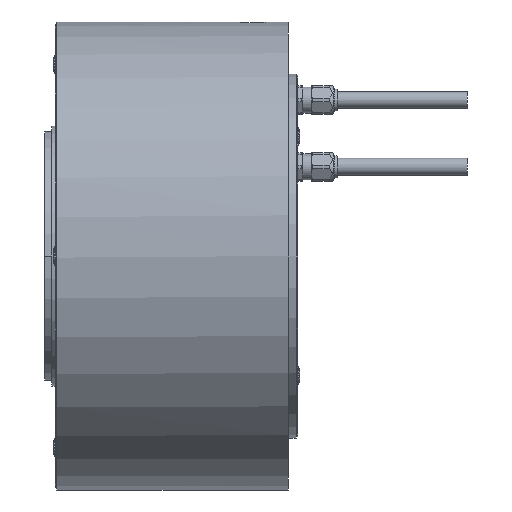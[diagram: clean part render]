
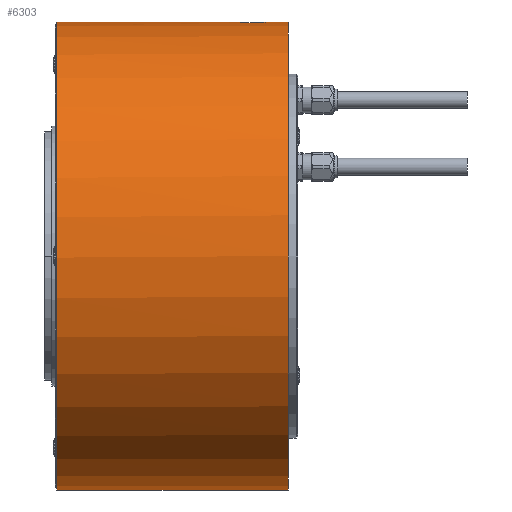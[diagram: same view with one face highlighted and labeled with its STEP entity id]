
A CAD part, left-side view. The second image highlights one B-rep face of the part: STEP entity #6303.
In plain terms, the highlighted cylindrical face has radius 90 mm (diameter 180 mm), a partial arc.
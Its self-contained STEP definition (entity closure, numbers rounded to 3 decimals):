
#370 = ORIENTED_EDGE ( 'NONE', *, *, #15970, .T. ) ;
#435 = CARTESIAN_POINT ( 'NONE',  ( -6.956, -13.911, 89.731 ) ) ;
#460 = AXIS2_PLACEMENT_3D ( 'NONE', #5119, #17191, #15517 ) ;
#723 = CARTESIAN_POINT ( 'NONE',  ( -3.106, -19.29, 89.947 ) ) ;
#1113 = CARTESIAN_POINT ( 'NONE',  ( -5.566, -8.73, 89.828 ) ) ;
#1204 = CARTESIAN_POINT ( 'NONE',  ( -6.775, -11.182, 89.745 ) ) ;
#1259 = EDGE_CURVE ( 'NONE', #17321, #12052, #19239, .T. ) ;
#1367 = ORIENTED_EDGE ( 'NONE', *, *, #6632, .F. ) ;
#1397 = CARTESIAN_POINT ( 'NONE',  ( -1.25, 62.2, 89.991 ) ) ;
#1403 = CARTESIAN_POINT ( 'NONE',  ( -0.921, -6.046, 89.996 ) ) ;
#1713 = FACE_OUTER_BOUND ( 'NONE', #11268, .T. ) ;
#2307 = CARTESIAN_POINT ( 'NONE',  ( -5.564, -17.272, 89.828 ) ) ;
#2392 = AXIS2_PLACEMENT_3D ( 'NONE', #16434, #15086, #12124 ) ;
#2419 = CARTESIAN_POINT ( 'NONE',  ( -6.765, -14.814, 89.745 ) ) ;
#2609 = CARTESIAN_POINT ( 'NONE',  ( -0.457, -6., 90. ) ) ;
#2695 = CARTESIAN_POINT ( 'NONE',  ( -4.269, -7.434, 89.899 ) ) ;
#2797 = CARTESIAN_POINT ( 'NONE',  ( 0., -6., 90. ) ) ;
#2895 = CARTESIAN_POINT ( 'NONE',  ( -6.28, -9.9, 89.781 ) ) ;
#3216 = CARTESIAN_POINT ( 'NONE',  ( 0., -30., 0. ) ) ;
#3290 = VECTOR ( 'NONE', #10648, 1000. ) ;
#3440 = CARTESIAN_POINT ( 'NONE',  ( -1.25, 62., 89.991 ) ) ;
#3706 = CARTESIAN_POINT ( 'NONE',  ( 0., -20., 90. ) ) ;
#3808 = LINE ( 'NONE', #12753, #18020 ) ;
#3900 = CARTESIAN_POINT ( 'NONE',  ( -3.508, -19.075, 89.932 ) ) ;
#4007 = DIRECTION ( 'NONE',  ( 0., 1., 0. ) ) ;
#4177 = B_SPLINE_CURVE_WITH_KNOTS ( 'NONE', 3,
 ( #3706, #15777, #9568, #8268, #15585, #14322, #9864, #723, #3900, #11372, #12842, #17367, #2307, #8368, #6885, #18946, #5388, #11469, #2419, #15967, #435, #14029, #6486 ),
 .UNSPECIFIED., .F., .F.,
 ( 4, 2, 2, 2, 2, 2, 2, 2, 1, 2, 2, 4 ),
 ( 0., 0.001, 0.002, 0.003, 0.004, 0.005, 0.007, 0.008, 0.008, 0.009, 0.01, 0.011 ),
 .UNSPECIFIED. ) ;
#4379 = CARTESIAN_POINT ( 'NONE',  ( -7., -13., 89.727 ) ) ;
#4568 = CARTESIAN_POINT ( 'NONE',  ( 0., -30., -90. ) ) ;
#4803 = ORIENTED_EDGE ( 'NONE', *, *, #1259, .T. ) ;
#5119 = CARTESIAN_POINT ( 'NONE',  ( 0., -27., 0. ) ) ;
#5173 = EDGE_CURVE ( 'NONE', #9224, #17884, #3808, .T. ) ;
#5191 = DIRECTION ( 'NONE',  ( 0., 1., 0. ) ) ;
#5388 = CARTESIAN_POINT ( 'NONE',  ( -6.478, -15.682, 89.767 ) ) ;
#5594 = CARTESIAN_POINT ( 'NONE',  ( -1.25, 62., 89.991 ) ) ;
#5686 = DIRECTION ( 'NONE',  ( 0., 0., 1. ) ) ;
#5692 = VERTEX_POINT ( 'NONE', #14673 ) ;
#5772 = CARTESIAN_POINT ( 'NONE',  ( -6.38, -10.11, 89.774 ) ) ;
#5775 = B_SPLINE_CURVE_WITH_KNOTS ( 'NONE', 3,
 ( #4379, #14895, #11655, #1204, #17755, #5772, #2895, #7258, #11844, #1113, #14803, #11753, #2695, #10446, #16349, #12040, #18029, #19231, #16161, #1403, #2609, #2797 ),
 .UNSPECIFIED., .F., .F.,
 ( 4, 2, 2, 2, 2, 2, 2, 2, 2, 2, 4 ),
 ( 0.011, 0.012, 0.014, 0.014, 0.015, 0.016, 0.018, 0.018, 0.019, 0.021, 0.022 ),
 .UNSPECIFIED. ) ;
#6151 = CIRCLE ( 'NONE', #460, 90. ) ;
#6303 = ADVANCED_FACE ( 'NONE', ( #1713 ), #16745, .T. ) ;
#6304 = CARTESIAN_POINT ( 'NONE',  ( 0., -20., 90. ) ) ;
#6486 = CARTESIAN_POINT ( 'NONE',  ( -7., -13., 89.727 ) ) ;
#6632 = EDGE_CURVE ( 'NONE', #17321, #17884, #8094, .T. ) ;
#6885 = CARTESIAN_POINT ( 'NONE',  ( -6.067, -16.499, 89.795 ) ) ;
#7258 = CARTESIAN_POINT ( 'NONE',  ( -6.064, -9.495, 89.796 ) ) ;
#7763 = DIRECTION ( 'NONE',  ( 0., 1., 0. ) ) ;
#7986 = ORIENTED_EDGE ( 'NONE', *, *, #8487, .T. ) ;
#8094 = CIRCLE ( 'NONE', #2392, 90. ) ;
#8268 = CARTESIAN_POINT ( 'NONE',  ( -1.589, -19.821, 89.986 ) ) ;
#8368 = CARTESIAN_POINT ( 'NONE',  ( -5.948, -16.698, 89.803 ) ) ;
#8383 = VERTEX_POINT ( 'NONE', #15507 ) ;
#8487 = EDGE_CURVE ( 'NONE', #18234, #17362, #11484, .T. ) ;
#8677 = CARTESIAN_POINT ( 'NONE',  ( 0., -30., 90. ) ) ;
#8717 = AXIS2_PLACEMENT_3D ( 'NONE', #3216, #7763, #13830 ) ;
#9224 = VERTEX_POINT ( 'NONE', #12320 ) ;
#9568 = CARTESIAN_POINT ( 'NONE',  ( -0.918, -19.955, 89.996 ) ) ;
#9800 = CARTESIAN_POINT ( 'NONE',  ( 0., 62.2, -90. ) ) ;
#9864 = CARTESIAN_POINT ( 'NONE',  ( -2.47, -19.554, 89.966 ) ) ;
#10281 = VERTEX_POINT ( 'NONE', #9800 ) ;
#10446 = CARTESIAN_POINT ( 'NONE',  ( -3.701, -7.054, 89.924 ) ) ;
#10648 = DIRECTION ( 'NONE',  ( 0., 1., 0. ) ) ;
#10819 = EDGE_CURVE ( 'NONE', #8383, #10281, #12135, .T. ) ;
#10950 = ORIENTED_EDGE ( 'NONE', *, *, #10819, .F. ) ;
#11268 = EDGE_LOOP ( 'NONE', ( #10950, #11334, #7986, #17784, #370, #14234, #1367, #4803, #18978 ) ) ;
#11334 = ORIENTED_EDGE ( 'NONE', *, *, #16993, .F. ) ;
#11372 = CARTESIAN_POINT ( 'NONE',  ( -4.269, -18.567, 89.9 ) ) ;
#11469 = CARTESIAN_POINT ( 'NONE',  ( -6.632, -15.253, 89.755 ) ) ;
#11484 = LINE ( 'NONE', #8677, #16074 ) ;
#11655 = CARTESIAN_POINT ( 'NONE',  ( -6.954, -12.079, 89.731 ) ) ;
#11753 = CARTESIAN_POINT ( 'NONE',  ( -4.623, -7.724, 89.882 ) ) ;
#11844 = CARTESIAN_POINT ( 'NONE',  ( -5.946, -9.299, 89.803 ) ) ;
#11906 = EDGE_CURVE ( 'NONE', #10281, #12052, #18151, .T. ) ;
#12040 = CARTESIAN_POINT ( 'NONE',  ( -3.1, -6.72, 89.947 ) ) ;
#12052 = VERTEX_POINT ( 'NONE', #1397 ) ;
#12124 = DIRECTION ( 'NONE',  ( 0., 0., 1. ) ) ;
#12135 = LINE ( 'NONE', #4568, #3290 ) ;
#12320 = CARTESIAN_POINT ( 'NONE',  ( 0., -6., 90. ) ) ;
#12516 = AXIS2_PLACEMENT_3D ( 'NONE', #17665, #19244, #5686 ) ;
#12753 = CARTESIAN_POINT ( 'NONE',  ( 0., -30., 90. ) ) ;
#12842 = CARTESIAN_POINT ( 'NONE',  ( -4.629, -18.271, 89.881 ) ) ;
#12863 = DIRECTION ( 'NONE',  ( 0., 1., 0. ) ) ;
#13306 = EDGE_CURVE ( 'NONE', #17362, #5692, #4177, .T. ) ;
#13607 = VECTOR ( 'NONE', #4007, 1000. ) ;
#13830 = DIRECTION ( 'NONE',  ( 0., 0., 1. ) ) ;
#14029 = CARTESIAN_POINT ( 'NONE',  ( -7., -13.457, 89.727 ) ) ;
#14234 = ORIENTED_EDGE ( 'NONE', *, *, #5173, .T. ) ;
#14322 = CARTESIAN_POINT ( 'NONE',  ( -2.251, -19.632, 89.972 ) ) ;
#14673 = CARTESIAN_POINT ( 'NONE',  ( -7., -13., 89.727 ) ) ;
#14803 = CARTESIAN_POINT ( 'NONE',  ( -5.277, -8.377, 89.846 ) ) ;
#14895 = CARTESIAN_POINT ( 'NONE',  ( -7., -12.543, 89.727 ) ) ;
#15086 = DIRECTION ( 'NONE',  ( 0., 1., 0. ) ) ;
#15225 = CARTESIAN_POINT ( 'NONE',  ( 0., -27., 90. ) ) ;
#15507 = CARTESIAN_POINT ( 'NONE',  ( 0., -27., -90. ) ) ;
#15517 = DIRECTION ( 'NONE',  ( 0., 0., -1. ) ) ;
#15585 = CARTESIAN_POINT ( 'NONE',  ( -1.811, -19.766, 89.982 ) ) ;
#15777 = CARTESIAN_POINT ( 'NONE',  ( -0.463, -20., 90. ) ) ;
#15967 = CARTESIAN_POINT ( 'NONE',  ( -6.821, -14.589, 89.741 ) ) ;
#15970 = EDGE_CURVE ( 'NONE', #5692, #9224, #5775, .T. ) ;
#16074 = VECTOR ( 'NONE', #12863, 1000. ) ;
#16161 = CARTESIAN_POINT ( 'NONE',  ( -1.818, -6.225, 89.983 ) ) ;
#16349 = CARTESIAN_POINT ( 'NONE',  ( -3.505, -6.936, 89.932 ) ) ;
#16434 = CARTESIAN_POINT ( 'NONE',  ( 0., 62., 0. ) ) ;
#16620 = CARTESIAN_POINT ( 'NONE',  ( 0., 62., 90. ) ) ;
#16745 = CYLINDRICAL_SURFACE ( 'NONE', #8717, 90. ) ;
#16993 = EDGE_CURVE ( 'NONE', #18234, #8383, #6151, .T. ) ;
#17191 = DIRECTION ( 'NONE',  ( 0., -1., 0. ) ) ;
#17321 = VERTEX_POINT ( 'NONE', #3440 ) ;
#17362 = VERTEX_POINT ( 'NONE', #6304 ) ;
#17367 = CARTESIAN_POINT ( 'NONE',  ( -5.274, -17.625, 89.846 ) ) ;
#17665 = CARTESIAN_POINT ( 'NONE',  ( 0., 62.2, 0. ) ) ;
#17755 = CARTESIAN_POINT ( 'NONE',  ( -6.643, -10.746, 89.755 ) ) ;
#17784 = ORIENTED_EDGE ( 'NONE', *, *, #13306, .T. ) ;
#17884 = VERTEX_POINT ( 'NONE', #16620 ) ;
#18020 = VECTOR ( 'NONE', #5191, 1000. ) ;
#18029 = CARTESIAN_POINT ( 'NONE',  ( -2.89, -6.62, 89.954 ) ) ;
#18151 = CIRCLE ( 'NONE', #12516, 90. ) ;
#18234 = VERTEX_POINT ( 'NONE', #15225 ) ;
#18946 = CARTESIAN_POINT ( 'NONE',  ( -6.283, -16.095, 89.781 ) ) ;
#18978 = ORIENTED_EDGE ( 'NONE', *, *, #11906, .F. ) ;
#19231 = CARTESIAN_POINT ( 'NONE',  ( -2.254, -6.357, 89.973 ) ) ;
#19239 = LINE ( 'NONE', #5594, #13607 ) ;
#19244 = DIRECTION ( 'NONE',  ( 0., 1., 0. ) ) ;
